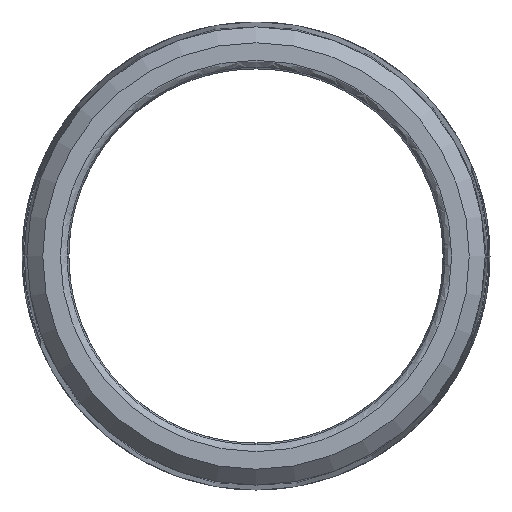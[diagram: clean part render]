
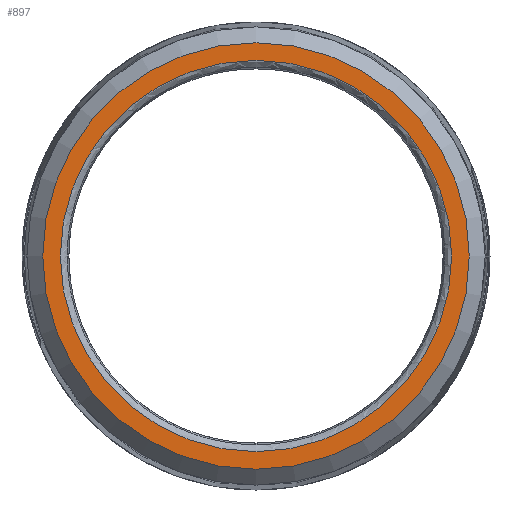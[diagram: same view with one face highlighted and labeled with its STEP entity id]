
A CAD part, left-side view. The second image highlights one B-rep face of the part: STEP entity #897.
In plain terms, the highlighted planar face has unit normal (-1, 0, 0).
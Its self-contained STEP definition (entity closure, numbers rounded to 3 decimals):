
#812 = PLANE ( 'NONE',  #1800 ) ;
#897 = ADVANCED_FACE ( 'NONE', ( #6114, #10244 ), #812, .T. ) ;
#902 = ORIENTED_EDGE ( 'NONE', *, *, #3866, .T. ) ;
#1667 = CARTESIAN_POINT ( 'NONE',  ( -56., 1., -26.026 ) ) ;
#1800 = AXIS2_PLACEMENT_3D ( 'NONE', #3178, #6391, #8423 ) ;
#1920 = EDGE_LOOP ( 'NONE', ( #3473 ) ) ;
#2068 = CIRCLE ( 'NONE', #6307, 25. ) ;
#2852 = CIRCLE ( 'NONE', #5972, 27.25 ) ;
#3178 = CARTESIAN_POINT ( 'NONE',  ( -56., 26., -26.026 ) ) ;
#3189 = CARTESIAN_POINT ( 'NONE',  ( -56., 53.25, -26.026 ) ) ;
#3473 = ORIENTED_EDGE ( 'NONE', *, *, #7536, .F. ) ;
#3866 = EDGE_CURVE ( 'NONE', #11956, #11956, #2068, .T. ) ;
#5389 = DIRECTION ( 'NONE',  ( 0., -1., 0. ) ) ;
#5897 = CARTESIAN_POINT ( 'NONE',  ( -56., 26., -26.026 ) ) ;
#5972 = AXIS2_PLACEMENT_3D ( 'NONE', #5897, #9087, #9155 ) ;
#5995 = DIRECTION ( 'NONE',  ( 1., 0., 0. ) ) ;
#6114 = FACE_BOUND ( 'NONE', #10859, .T. ) ;
#6307 = AXIS2_PLACEMENT_3D ( 'NONE', #7350, #5995, #5389 ) ;
#6391 = DIRECTION ( 'NONE',  ( -1., 0., 0. ) ) ;
#7350 = CARTESIAN_POINT ( 'NONE',  ( -56., 26., -26.026 ) ) ;
#7536 = EDGE_CURVE ( 'NONE', #10458, #10458, #2852, .T. ) ;
#8423 = DIRECTION ( 'NONE',  ( 0., -1., 0. ) ) ;
#9087 = DIRECTION ( 'NONE',  ( 1., 0., 0. ) ) ;
#9155 = DIRECTION ( 'NONE',  ( 0., 1., 0. ) ) ;
#10244 = FACE_OUTER_BOUND ( 'NONE', #1920, .T. ) ;
#10458 = VERTEX_POINT ( 'NONE', #3189 ) ;
#10859 = EDGE_LOOP ( 'NONE', ( #902 ) ) ;
#11956 = VERTEX_POINT ( 'NONE', #1667 ) ;
